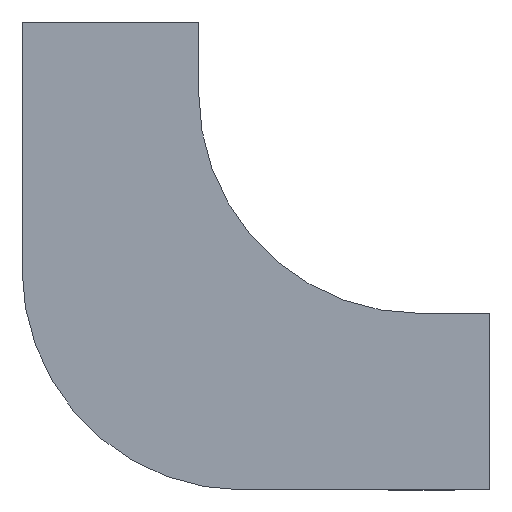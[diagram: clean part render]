
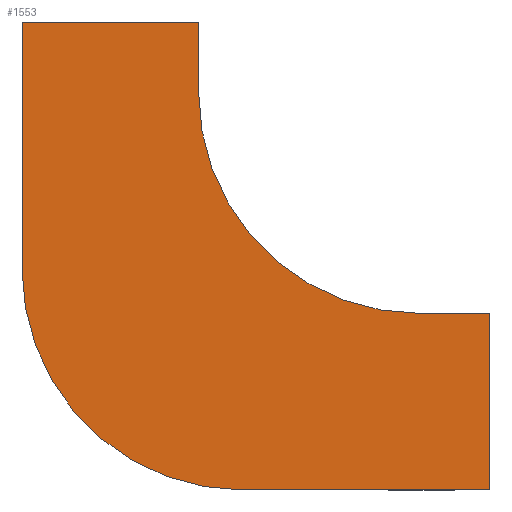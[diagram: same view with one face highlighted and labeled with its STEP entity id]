
A CAD part, front view. The second image highlights one B-rep face of the part: STEP entity #1553.
In plain terms, the highlighted planar face has unit normal (0, -1, 0).
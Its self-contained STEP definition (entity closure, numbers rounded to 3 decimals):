
#32 = LINE ( 'NONE', #953, #46 ) ;
#46 = VECTOR ( 'NONE', #1076, 1000. ) ;
#54 = CARTESIAN_POINT ( 'NONE',  ( 40., 0., -125. ) ) ;
#78 = DIRECTION ( 'NONE',  ( 0., 0., 1. ) ) ;
#96 = CIRCLE ( 'NONE', #231, 125. ) ;
#99 = ORIENTED_EDGE ( 'NONE', *, *, #1002, .F. ) ;
#164 = VERTEX_POINT ( 'NONE', #1243 ) ;
#188 = AXIS2_PLACEMENT_3D ( 'NONE', #203, #224, #740 ) ;
#203 = CARTESIAN_POINT ( 'NONE',  ( -100., 0., -100. ) ) ;
#224 = DIRECTION ( 'NONE',  ( 0., 1., 0. ) ) ;
#231 = AXIS2_PLACEMENT_3D ( 'NONE', #736, #346, #241 ) ;
#241 = DIRECTION ( 'NONE',  ( 0., 0., -1. ) ) ;
#242 = EDGE_CURVE ( 'NONE', #1202, #1067, #1440, .T. ) ;
#252 = VECTOR ( 'NONE', #864, 1000. ) ;
#298 = VECTOR ( 'NONE', #78, 1000. ) ;
#329 = CARTESIAN_POINT ( 'NONE',  ( 40., 0., -125. ) ) ;
#337 = CARTESIAN_POINT ( 'NONE',  ( 0., 0., -125. ) ) ;
#346 = DIRECTION ( 'NONE',  ( 0., -1., 0. ) ) ;
#359 = EDGE_CURVE ( 'NONE', #983, #1202, #379, .T. ) ;
#379 = LINE ( 'NONE', #1546, #1366 ) ;
#391 = VERTEX_POINT ( 'NONE', #1437 ) ;
#403 = CARTESIAN_POINT ( 'NONE',  ( 0., 0., -125. ) ) ;
#494 = LINE ( 'NONE', #337, #252 ) ;
#515 = CARTESIAN_POINT ( 'NONE',  ( -100., 0., -225. ) ) ;
#517 = VERTEX_POINT ( 'NONE', #403 ) ;
#574 = CARTESIAN_POINT ( 'NONE',  ( -125., 0., 0. ) ) ;
#634 = CARTESIAN_POINT ( 'NONE',  ( -225., 0., -100. ) ) ;
#684 = EDGE_CURVE ( 'NONE', #1067, #391, #749, .T. ) ;
#685 = PLANE ( 'NONE',  #1565 ) ;
#736 = CARTESIAN_POINT ( 'NONE',  ( 0., 0., 0. ) ) ;
#740 = DIRECTION ( 'NONE',  ( 0., 0., 1. ) ) ;
#749 = LINE ( 'NONE', #1275, #298 ) ;
#776 = ORIENTED_EDGE ( 'NONE', *, *, #1022, .F. ) ;
#829 = LINE ( 'NONE', #1106, #1212 ) ;
#832 = ORIENTED_EDGE ( 'NONE', *, *, #359, .F. ) ;
#864 = DIRECTION ( 'NONE',  ( 1., 0., 0. ) ) ;
#908 = DIRECTION ( 'NONE',  ( -1., 0., 0. ) ) ;
#909 = VERTEX_POINT ( 'NONE', #54 ) ;
#920 = EDGE_CURVE ( 'NONE', #391, #164, #829, .T. ) ;
#953 = CARTESIAN_POINT ( 'NONE',  ( -125., 0., 40. ) ) ;
#983 = VERTEX_POINT ( 'NONE', #1255 ) ;
#1002 = EDGE_CURVE ( 'NONE', #517, #909, #494, .T. ) ;
#1022 = EDGE_CURVE ( 'NONE', #1312, #517, #96, .T. ) ;
#1029 = EDGE_LOOP ( 'NONE', ( #1609, #1454, #1186, #832, #1220, #99, #776, #1338 ) ) ;
#1067 = VERTEX_POINT ( 'NONE', #634 ) ;
#1076 = DIRECTION ( 'NONE',  ( 0., 0., -1. ) ) ;
#1081 = DIRECTION ( 'NONE',  ( 0., -1., 0. ) ) ;
#1106 = CARTESIAN_POINT ( 'NONE',  ( -225., 0., 40. ) ) ;
#1186 = ORIENTED_EDGE ( 'NONE', *, *, #242, .F. ) ;
#1199 = FACE_OUTER_BOUND ( 'NONE', #1029, .T. ) ;
#1202 = VERTEX_POINT ( 'NONE', #515 ) ;
#1212 = VECTOR ( 'NONE', #1218, 1000. ) ;
#1218 = DIRECTION ( 'NONE',  ( 1., 0., 0. ) ) ;
#1220 = ORIENTED_EDGE ( 'NONE', *, *, #1676, .F. ) ;
#1243 = CARTESIAN_POINT ( 'NONE',  ( -125., 0., 40. ) ) ;
#1255 = CARTESIAN_POINT ( 'NONE',  ( 40., 0., -225. ) ) ;
#1275 = CARTESIAN_POINT ( 'NONE',  ( -225., 0., -100. ) ) ;
#1279 = VECTOR ( 'NONE', #1478, 1000. ) ;
#1305 = EDGE_CURVE ( 'NONE', #164, #1312, #32, .T. ) ;
#1312 = VERTEX_POINT ( 'NONE', #574 ) ;
#1338 = ORIENTED_EDGE ( 'NONE', *, *, #1305, .F. ) ;
#1366 = VECTOR ( 'NONE', #908, 1000. ) ;
#1423 = DIRECTION ( 'NONE',  ( 0., 0., -1. ) ) ;
#1437 = CARTESIAN_POINT ( 'NONE',  ( -225., 0., 40. ) ) ;
#1440 = CIRCLE ( 'NONE', #188, 125. ) ;
#1454 = ORIENTED_EDGE ( 'NONE', *, *, #684, .F. ) ;
#1478 = DIRECTION ( 'NONE',  ( 0., 0., -1. ) ) ;
#1494 = LINE ( 'NONE', #329, #1279 ) ;
#1542 = CARTESIAN_POINT ( 'NONE',  ( 0., 0., 0. ) ) ;
#1546 = CARTESIAN_POINT ( 'NONE',  ( 40., 0., -225. ) ) ;
#1553 = ADVANCED_FACE ( 'NONE', ( #1199 ), #685, .T. ) ;
#1565 = AXIS2_PLACEMENT_3D ( 'NONE', #1542, #1081, #1423 ) ;
#1609 = ORIENTED_EDGE ( 'NONE', *, *, #920, .F. ) ;
#1676 = EDGE_CURVE ( 'NONE', #909, #983, #1494, .T. ) ;
